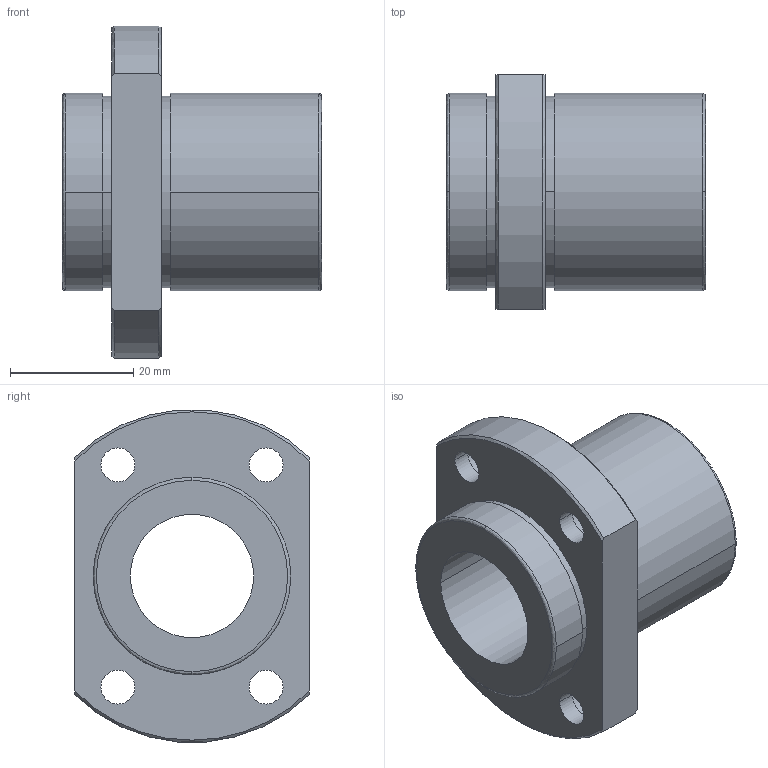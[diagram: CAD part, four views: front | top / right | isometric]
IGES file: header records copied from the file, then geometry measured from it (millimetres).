
Start section: 3D InterOp IGES (Version 21 0 1), Spatial Corp. Copyright (c) 1999-2007.
Global section: file name: NFIO-20VUU.igs; native system: Spatial Corp.; preprocessor: 3D InterOp GENERIC/IGES 3.0; author: Noname; organization: Noname; date: 20220308.102023; units: millimetre
Bounding box: 42 x 38 x 53.8 mm (x, y, z)
Surface area: 11143.1 mm2 (no closed solid volume)
Topology: 0 solids, 0 shells, 48 faces, 228 edges, 228 vertices
Faces by surface type: revolution 36, extrusion 12
